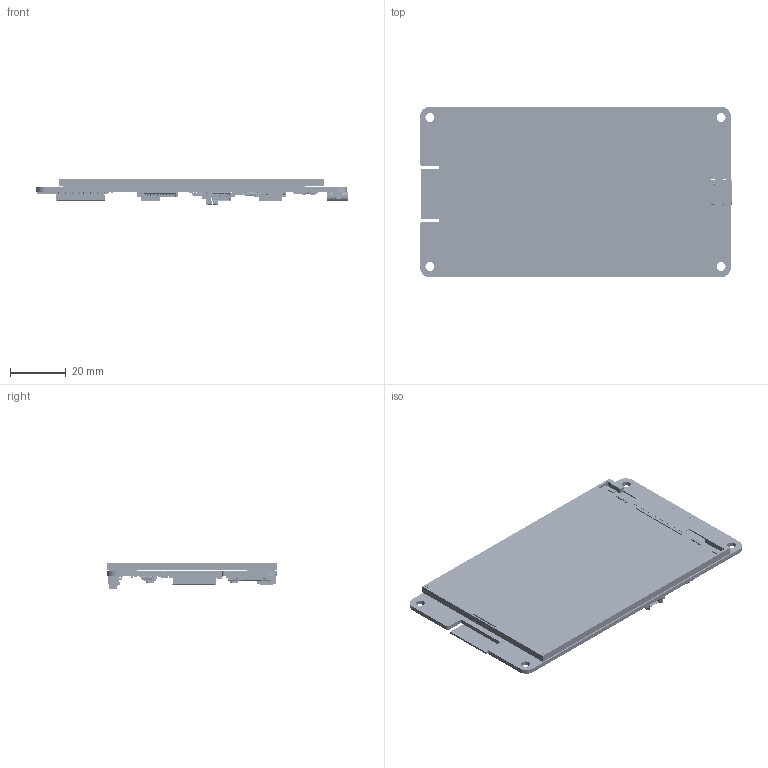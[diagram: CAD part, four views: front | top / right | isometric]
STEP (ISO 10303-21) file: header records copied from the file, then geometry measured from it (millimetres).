
FILE_DESCRIPTION(('Open CASCADE Model'),'2;1');
FILE_NAME('Open CASCADE Shape Model','2025-04-15T18:51:15',('Author'),( 'Open CASCADE'),'Open CASCADE STEP processor 6.8','Open CASCADE 6.8' ,'Unknown');
FILE_SCHEMA(('AUTOMOTIVE_DESIGN { 1 0 10303 214 1 1 1 1 }'));
Length unit declared in the file: millimetre
Products named in the file (330): PCB; Board; Open CASCADE STEP translator 6.8 3.1.1; R23; 6678512240; R34; R33; R32; 6325786864; R31; R30; 6678518000; R29; Q5; 6678515120; U2; ESP32-WROOM-32E_20210903; ESP32-WROOM-32E_20210903.STEP; PCB_ESP32-WROOM-32E_V1(2)^PCB_ESP32-WROOM-32E_V1.STEP; DesignRootModel^PCB_ESP32-WROOM-32E_V1(2)_PCB_ESP32-WROOM-32E_V1.STEP; Submodel-SLP48_5X5_part^DesignRootModel_PCB_ESP32-WROOM-32E_V1(2)_PCB_
ESP32-WROOM-32E_V1.STEP; ESP32_5x5_20210301.STEP^Submodel-SLP48_5X5_part_DesignRootModel_PCB_
ESP32-WROOM-32E_V1(2)_PCB_ESP32-WROOM-32E_V1.STEP; ESP32_5x5_20210301.STEP^ESP32_5x5_20210301.STEP_Submodel-SLP48_5X5_
part_DesignRootModel_PCB_ESP32-WROOM-32E_V1(2)_PCB_ESP32-WROOM-32E_
V1.STEP; Submodel-ANT_L_TYPEA_1501846164_part^DesignRootModel_PCB_
ESP32-WROOM-32E_V1(2)_PCB_ESP32-WROOM-32E_V1.STEP; trace_1^Submodel-ANT_L_TYPEA_1501846164_part_DesignRootModel_PCB_
ESP32-WROOM-32E_V1(2)_PCB_ESP32-WROOM-32E_V1.STEP; Submodel-SOD882_part^DesignRootModel_PCB_ESP32-WROOM-32E_V1(2)_PCB_
ESP32-WROOM-32E_V1.STEP; DFN1006.STEP^Submodel-SOD882_part_DesignRootModel_PCB_ESP32-WROOM-32E_
V1(2)_PCB_ESP32-WROOM-32E_V1.STEP; DFN1006.STEP^DFN1006.STEP_Submodel-SOD882_part_DesignRootModel_PCB_
ESP32-WROOM-32E_V1(2)_PCB_ESP32-WROOM-32E_V1.STEP; Submodel-R0201_part^DesignRootModel_PCB_ESP32-WROOM-32E_V1(2)_PCB_
ESP32-WROOM-32E_V1.STEP; R0201_20210301.STEP^Submodel-R0201_part_DesignRootModel_PCB_
ESP32-WROOM-32E_V1(2)_PCB_ESP32-WROOM-32E_V1.STEP; R0201_20210301.STEP^R0201_20210301.STEP_Submodel-R0201_part_
DesignRootModel_PCB_ESP32-WROOM-32E_V1(2)_PCB_ESP32-WROOM-32E_V1.STEP; Submodel-R0201_part^DesignRootModel_PCB_ESP32-WROOM-32E_V1(2)_PCB_
ESP32-WROOM-32E_V1-1.STEP; R0201_20210301.STEP^Submodel-R0201_part_DesignRootModel_PCB_
ESP32-WROOM-32E_V1(2)_PCB_ESP32-WROOM-32E_V1-1.STEP; Submodel-R0201_part^DesignRootModel_PCB_ESP32-WROOM-32E_V1(2)_PCB_
ESP32-WROOM-32E_V1-2.STEP; R0201_20210301.STEP^Submodel-R0201_part_DesignRootModel_PCB_
ESP32-WROOM-32E_V1(2)_PCB_ESP32-WROOM-32E_V1-2.STEP; Submodel-L0201_part^DesignRootModel_PCB_ESP32-WROOM-32E_V1(2)_PCB_
ESP32-WROOM-32E_V1.STEP; L0201_20210301.STEP^Submodel-L0201_part_DesignRootModel_PCB_
ESP32-WROOM-32E_V1(2)_PCB_ESP32-WROOM-32E_V1.STEP; L0201_20210301.STEP^L0201_20210301.STEP_Submodel-L0201_part_
DesignRootModel_PCB_ESP32-WROOM-32E_V1(2)_PCB_ESP32-WROOM-32E_V1.STEP; Submodel-L0201_part^DesignRootModel_PCB_ESP32-WROOM-32E_V1(2)_PCB_
ESP32-WROOM-32E_V1-1.STEP; L0201_20210301.STEP^Submodel-L0201_part_DesignRootModel_PCB_
ESP32-WROOM-32E_V1(2)_PCB_ESP32-WROOM-32E_V1-1.STEP ...
Assembly tree (458 placements, depth 9):
  PCB
    Board
      Open CASCADE STEP translator 6.8 3.1.1
    R23
      6678512240
    R34
      6678512240
    R33
      6678512240
    R32
      6325786864
    R31
      6325786864
    R30
      6678518000
    R29
      6678518000
    Q5
      6678515120
    U2
      ESP32-WROOM-32E_20210903
        ESP32-WROOM-32E_20210903.STEP
          PCB_ESP32-WROOM-32E_V1(2)^PCB_ESP32-WROOM-32E_V1.STEP
            DesignRootModel^PCB_ESP32-WROOM-32E_V1(2)_PCB_ESP32-WROOM-32E_V1.STEP
              Submodel-SLP48_5X5_part^DesignRootModel_PCB_ESP32-WROOM-32E_V1(2)_PCB_
ESP32-WROOM-32E_V1.STEP
                ESP32_5x5_20210301.STEP^Submodel-SLP48_5X5_part_DesignRootModel_PCB_
ESP32-WROOM-32E_V1(2)_PCB_ESP32-WROOM-32E_V1.STEP
                  ESP32_5x5_20210301.STEP^ESP32_5x5_20210301.STEP_Submodel-SLP48_5X5_
part_DesignRootModel_PCB_ESP32-WROOM-32E_V1(2)_PCB_ESP32-WROOM-32E_
V1.STEP
              Submodel-ANT_L_TYPEA_1501846164_part^DesignRootModel_PCB_
ESP32-WROOM-32E_V1(2)_PCB_ESP32-WROOM-32E_V1.STEP
                trace_1^Submodel-ANT_L_TYPEA_1501846164_part_DesignRootModel_PCB_
ESP32-WROOM-32E_V1(2)_PCB_ESP32-WROOM-32E_V1.STEP
              Submodel-SOD882_part^DesignRootModel_PCB_ESP32-WROOM-32E_V1(2)_PCB_
ESP32-WROOM-32E_V1.STEP
                DFN1006.STEP^Submodel-SOD882_part_DesignRootModel_PCB_ESP32-WROOM-32E_
V1(2)_PCB_ESP32-WROOM-32E_V1.STEP
                  DFN1006.STEP^DFN1006.STEP_Submodel-SOD882_part_DesignRootModel_PCB_
ESP32-WROOM-32E_V1(2)_PCB_ESP32-WROOM-32E_V1.STEP
              Submodel-R0201_part^DesignRootModel_PCB_ESP32-WROOM-32E_V1(2)_PCB_
ESP32-WROOM-32E_V1.STEP
                R0201_20210301.STEP^Submodel-R0201_part_DesignRootModel_PCB_
ESP32-WROOM-32E_V1(2)_PCB_ESP32-WROOM-32E_V1.STEP
                  R0201_20210301.STEP^R0201_20210301.STEP_Submodel-R0201_part_
DesignRootModel_PCB_ESP32-WROOM-32E_V1(2)_PCB_ESP32-WROOM-32E_V1.STEP
              Submodel-R0201_part^DesignRootModel_PCB_ESP32-WROOM-32E_V1(2)_PCB_
ESP32-WROOM-32E_V1-1.STEP
                R0201_20210301.STEP^Submodel-R0201_part_DesignRootModel_PCB_
ESP32-WROOM-32E_V1(2)_PCB_ESP32-WROOM-32E_V1-1.STEP
                  R0201_20210301.STEP^R0201_20210301.STEP_Submodel-R0201_part_
DesignRootModel_PCB_ESP32-WROOM-32E_V1(2)_PCB_ESP32-WROOM-32E_V1.STEP
              Submodel-R0201_part^DesignRootModel_PCB_ESP32-WROOM-32E_V1(2)_PCB_
ESP32-WROOM-32E_V1-2.STEP
                R0201_20210301.STEP^Submodel-R0201_part_DesignRootModel_PCB_
ESP32-WROOM-32E_V1(2)_PCB_ESP32-WROOM-32E_V1-2.STEP
                  R0201_20210301.STEP^R0201_20210301.STEP_Submodel-R0201_part_
DesignRootModel_PCB_ESP32-WROOM-32E_V1(2)_PCB_ESP32-WROOM-32E_V1.STEP
              Submodel-L0201_part^DesignRootModel_PCB_ESP32-WROOM-32E_V1(2)_PCB_
ESP32-WROOM-32E_V1.STEP
                L0201_20210301.STEP^Submodel-L0201_part_DesignRootModel_PCB_
ESP32-WROOM-32E_V1(2)_PCB_ESP32-WROOM-32E_V1.STEP
                  L0201_20210301.STEP^L0201_20210301.STEP_Submodel-L0201_part_
DesignRootModel_PCB_ESP32-WROOM-32E_V1(2)_PCB_ESP32-WROOM-32E_V1.STEP
              Submodel-L0201_part^DesignRootModel_PCB_ESP32-WROOM-32E_V1(2)_PCB_
ESP32-WROOM-32E_V1-1.STEP
                L0201_20210301.STEP^Submodel-L0201_part_DesignRootModel_PCB_
ESP32-WROOM-32E_V1(2)_PCB_ESP32-WROOM-32E_V1-1.STEP
                  L0201_20210301.STEP^L0201_20210301.STEP_Submodel-L0201_part_
DesignRootModel_PCB_ESP32-WROOM-32E_V1(2)_PCB_ESP32-WROOM-32E_V1.STEP
              Submodel-C0201_part^DesignRootModel_PCB_ESP32-WROOM-32E_V1(2)_PCB_
ESP32-WROOM-32E_V1.STEP
                C0201_20210301.STEP^Submodel-C0201_part_DesignRootModel_PCB_
ESP32-WROOM-32E_V1(2)_PCB_ESP32-WROOM-32E_V1.STEP
                  C0201_20210301.STEP^C0201_20210301.STEP_Submodel-C0201_part_
DesignRootModel_PCB_ESP32-WROOM-32E_V1(2)_PCB_ESP32-WROOM-32E_V1.STEP
              Submodel-C0201_part^DesignRootModel_PCB_ESP32-WROOM-32E_V1(2)_PCB_
ESP32-WROOM-32E_V1-1.STEP
                C0201_20210301.STEP^Submodel-C0201_part_DesignRootModel_PCB_
ESP32-WROOM-32E_V1(2)_PCB_ESP32-WROOM-32E_V1-1.STEP
                  C0201_20210301.STEP^C0201_20210301.STEP_Submodel-C0201_part_
DesignRootModel_PCB_ESP32-WROOM-32E_V1(2)_PCB_ESP32-WROOM-32E_V1.STEP
              Submodel-C0201_part^DesignRootModel_PCB_ESP32-WROOM-32E_V1(2)_PCB_
ESP32-WROOM-32E_V1-2.STEP
                C0201_20210301.STEP^Submodel-C0201_part_DesignRootModel_PCB_
ESP32-WROOM-32E_V1(2)_PCB_ESP32-WROOM-32E_V1-2.STEP
                  C0201_20210301.STEP^C0201_20210301.STEP_Submodel-C0201_part_
DesignRootModel_PCB_ESP32-WROOM-32E_V1(2)_PCB_ESP32-WROOM-32E_V1.STEP
              Submodel-C0201_part^DesignRootModel_PCB_ESP32-WROOM-32E_V1(2)_PCB_
ESP32-WROOM-32E_V1-3.STEP
                C0201_20210301.STEP^Submodel-C0201_part_DesignRootModel_PCB_
ESP32-WROOM-32E_V1(2)_PCB_ESP32-WROOM-32E_V1-3.STEP
                  C0201_20210301.STEP^C0201_20210301.STEP_Submodel-C0201_part_
DesignRootModel_PCB_ESP32-WROOM-32E_V1(2)_PCB_ESP32-WROOM-32E_V1.STEP
              Submodel-C0201_part^DesignRootModel_PCB_ESP32-WROOM-32E_V1(2)_PCB_
ESP32-WROOM-32E_V1-4.STEP
Bounding box: 111.48 x 60.88 x 9.3 mm (x, y, z)
Volume: 26467.4 mm3; surface area: 39526.2 mm2
Topology: 794 solids, 1711 shells, 16809 faces, 44567 edges, 30404 vertices
Faces by surface type: plane 9893, bspline 3725, cylinder 2813, sphere 364, torus 7, cone 7
Full cylindrical faces by diameter (mm): 1 x2, 3.2 x4
Entity records: 290121 total; most frequent: CARTESIAN_POINT 90770, ORIENTED_EDGE 33650, DIRECTION 32091, EDGE_CURVE 19377, LINE 14675, VECTOR 14675, VERTEX_POINT 14345, AXIS2_PLACEMENT_3D 8708
